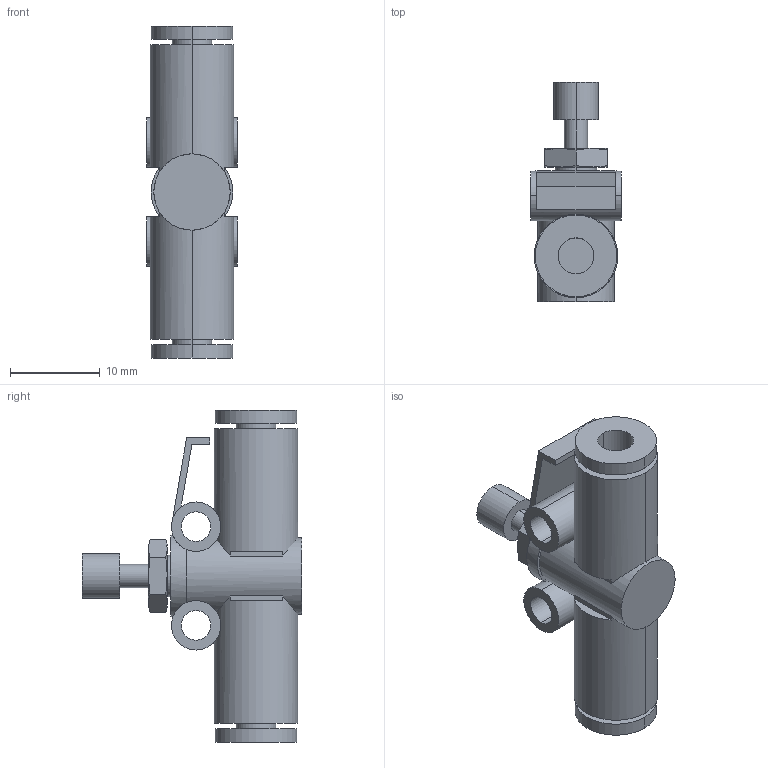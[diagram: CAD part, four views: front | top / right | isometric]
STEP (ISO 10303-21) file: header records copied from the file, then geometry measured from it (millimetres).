
FILE_DESCRIPTION( ( '' ), '1' );
FILE_NAME( 'G:/SMC狟婥/AS1002F-04.stp', '2023-03-07T03:57:53', ( '' ), ( '' ), ' ', ' ', ' ' );
FILE_SCHEMA( ( 'CONFIG_CONTROL_DESIGN' ) );
Length unit declared in the file: millimetre
Products named in the file (1): 1
Bounding box: 10.1 x 24.5 x 37 mm (x, y, z)
Volume: 2982.2 mm3; surface area: 2784.3 mm2
Topology: 1 solids, 1 shells, 79 faces, 192 edges, 126 vertices
Faces by surface type: plane 41, cylinder 34, cone 4
Entity records: 3024 total; most frequent: CARTESIAN_POINT 1122, DIRECTION 390, ORIENTED_EDGE 384, EDGE_CURVE 192, AXIS2_PLACEMENT_3D 154, VERTEX_POINT 126, EDGE_LOOP 94, LINE 82
